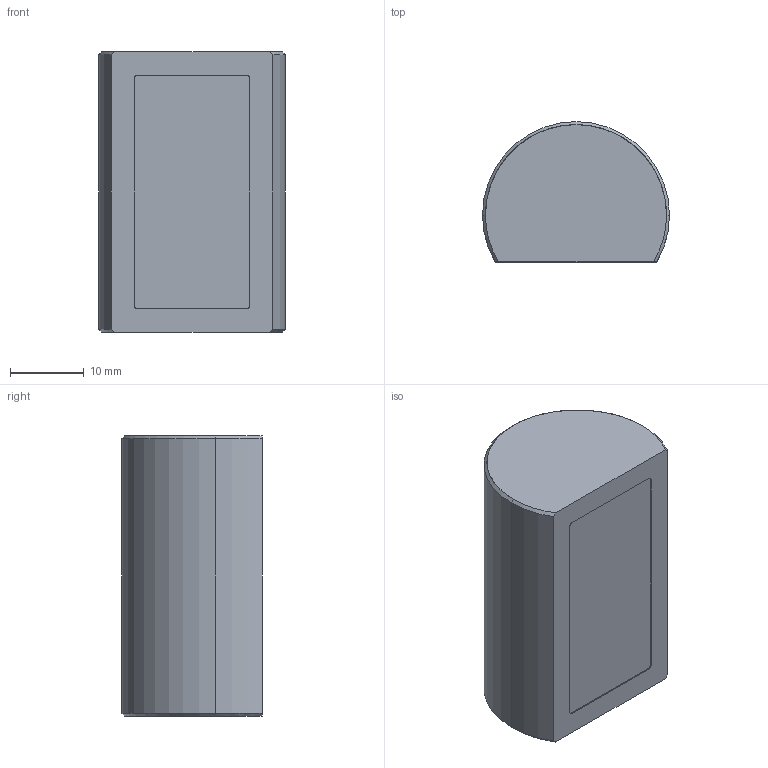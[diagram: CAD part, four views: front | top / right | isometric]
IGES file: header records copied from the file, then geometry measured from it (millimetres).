
Start section: SolidWorks IGES file using analytic representation for surfaces
Global section: file name: D:\Solid_parts\MECHeDESIGN\Bal-Tec\Catalog 105-A\Distribution\IGES\100-TCR.IGS; native system: SolidWorks 2005 by SolidWorks Corporation; preprocessor: SolidWorks 2005 by SolidWorks Corporation; author: rvillegas; date: 061205.183853; units: inch
Bounding box: 25.4 x 19.05 x 38.1 mm (x, y, z)
Surface area: 3666.2 mm2 (no closed solid volume)
Topology: 0 solids, 0 shells, 21 faces, 166 edges, 166 vertices
Faces by surface type: revolution 13, bspline 8
